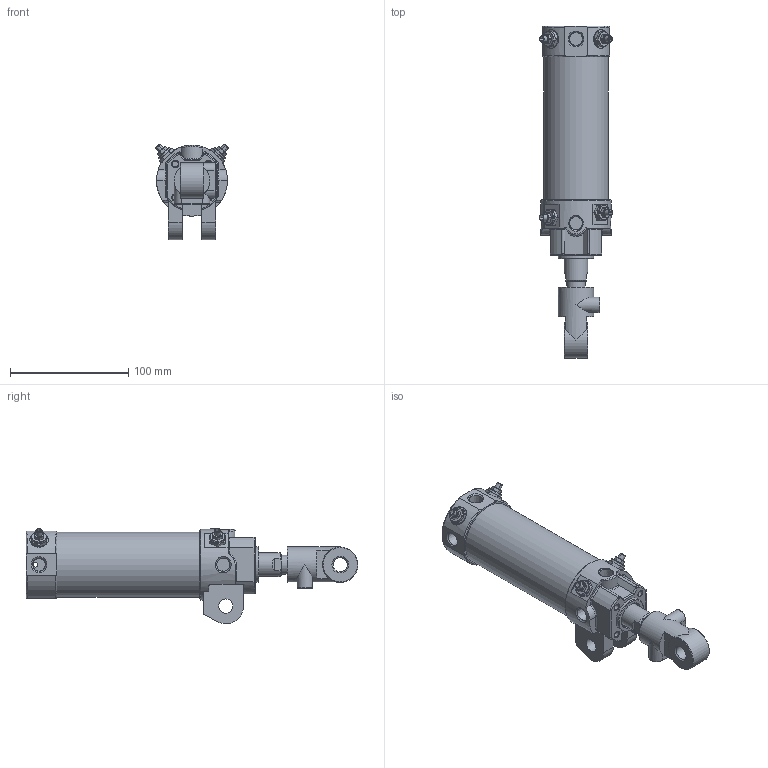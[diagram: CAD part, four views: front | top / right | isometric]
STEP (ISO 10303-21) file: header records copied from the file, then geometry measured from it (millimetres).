
FILE_DESCRIPTION((''),'2;1');
FILE_NAME('I:\3D電子目錄\氣缸\DCK\DCK\DCK-1B-50x75-I.stp','2008-02-26T14:22:34',('Administrator'),(''),'Autodesk Inventor 11','Autodesk Inventor 11','');
FILE_SCHEMA(('AUTOMOTIVE_DESIGN { 1 0 10303 214 1 1 1 1 }'));
Length unit declared in the file: millimetre
Products named in the file (6): DCK-1B-50-I; DCK-1A-50-I; 緩衝針; 緩衝針-1; 緩衝針-201; 緩衝針-3
Assembly tree (8 placements, depth 3):
  DCK-1B-50-I
    DCK-1A-50-I
    緩衝針  x4
      緩衝針-1
      緩衝針-201
      緩衝針-3
Bounding box: 61.76 x 281 x 80.87 mm (x, y, z)
Volume: 272594.4 mm3; surface area: 109848.4 mm2
Topology: 16 solids, 16 shells, 617 faces, 1375 edges, 859 vertices
Faces by surface type: plane 227, cylinder 180, cone 141, torus 35, bspline 34
Full cylindrical faces by diameter (mm): 2 x2, 3 x4, 3.8 x2, 4 x6, 4.6 x4, 5 x8, 5.1 x4, 5.2 x12, 5.5 x4, 7.25 x1, 7.9 x4, 8 x2, 10.3 x1, 11.3 x1, 12 x5, 12.8 x4, 16 x3, 20 x1, 21 x1, 22 x2, 23 x1, 24.7 x1, 26 x1, 27 x1, 28 x1, 29 x1, 30 x3, 33 x1, 49.5 x1, 52 x2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
Entity records: 12811 total; most frequent: CARTESIAN_POINT 5086, DIRECTION 1580, ORIENTED_EDGE 1388, EDGE_CURVE 694, AXIS2_PLACEMENT_3D 690, EDGE_LOOP 570, VERTEX_POINT 506, FACE_OUTER_BOUND 368
